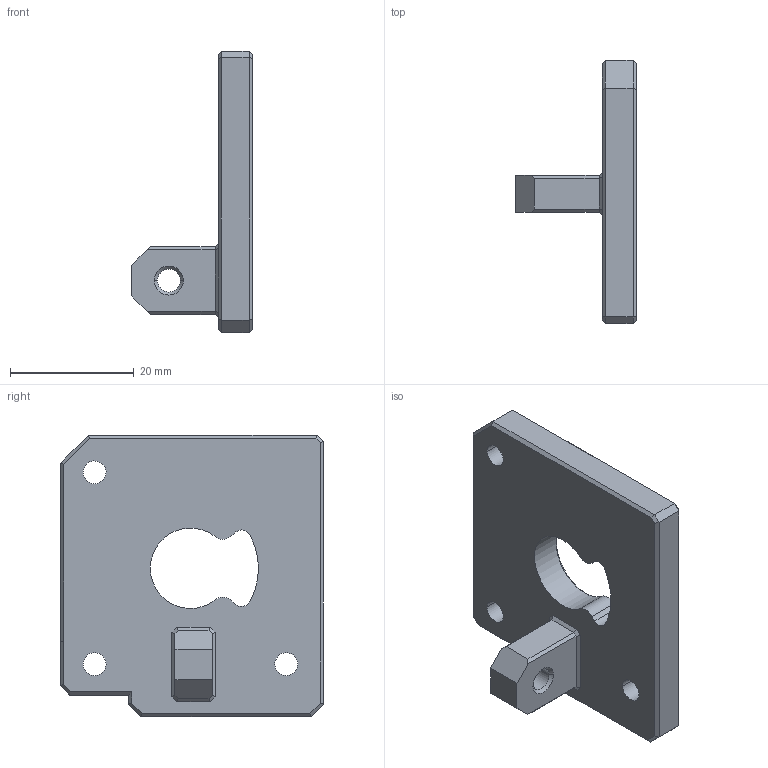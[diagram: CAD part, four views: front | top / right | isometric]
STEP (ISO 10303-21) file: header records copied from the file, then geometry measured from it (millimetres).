
FILE_DESCRIPTION(('CATIA V5 STEP Exchange'),'2;1');
FILE_NAME('D:\_이전 노트북\Cremaker모델링\Cremaker_profile-Metal(5차)-(Final)\body-cover.stp','2020-10-23T05:20:30+00:00',('none'),('none'),'CATIA Version 5 Release 20 GA (IN-10)','CATIA V5 STEP AP203','none');
FILE_SCHEMA(('CONFIG_CONTROL_DESIGN'));
Length unit declared in the file: millimetre
Products named in the file (1): body-cover
Bounding box: 19.5 x 42.5 x 45.5 mm (x, y, z)
Volume: 9835.3 mm3; surface area: 5095.6 mm2
Topology: 1 solids, 1 shells, 98 faces, 232 edges, 138 vertices
Faces by surface type: plane 64, cone 18, cylinder 16
Entity records: 2698 total; most frequent: CARTESIAN_POINT 493, ORIENTED_EDGE 464, DIRECTION 386, EDGE_CURVE 232, VECTOR 152, LINE 152, AXIS2_PLACEMENT_3D 143, VERTEX_POINT 138
